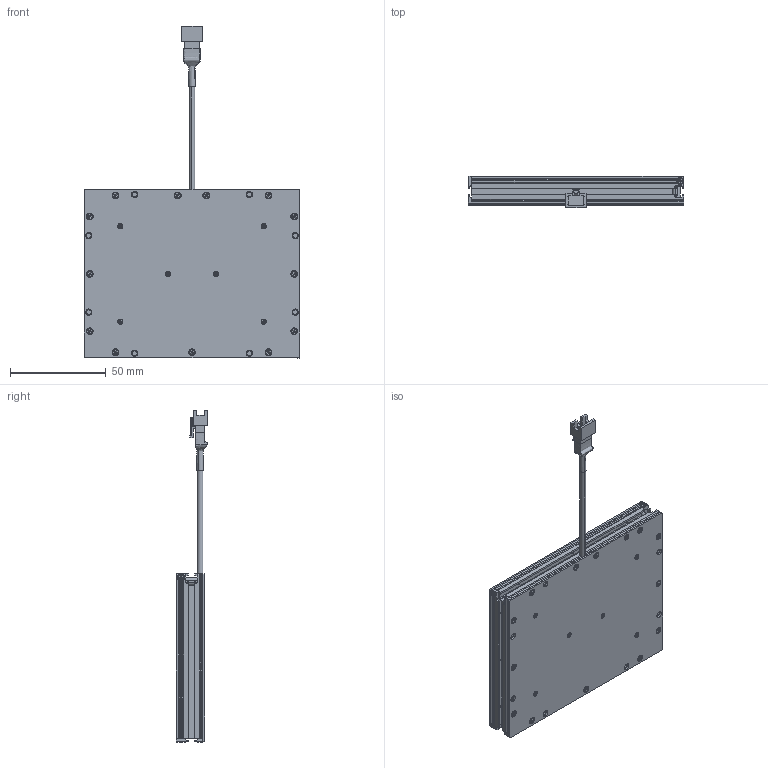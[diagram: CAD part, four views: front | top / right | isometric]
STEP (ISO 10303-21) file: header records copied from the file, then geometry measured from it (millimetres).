
FILE_DESCRIPTION (( 'STEP AP214' ), '1' );
FILE_NAME ('TMDF3004D101B_VDF-10075.STEP', '2023-05-02T03:09:10', ( '' ), ( '' ), 'SwSTEP 2.0', 'SolidWorks 2018', '' );
FILE_SCHEMA (( 'AUTOMOTIVE_DESIGN' ));
Length unit declared in the file: millimetre
Products named in the file (1): TMDF3004D101B_VDF-10075
Bounding box: 113 x 16.55 x 173.69 mm (x, y, z)
Surface area: 49213.7 mm2 (no closed solid volume)
Topology: 0 solids, 48 shells, 769 faces, 2309 edges, 1586 vertices
Faces by surface type: plane 507, cylinder 196, cone 64, bspline 2
Entity records: 35685 total; most frequent: CARTESIAN_POINT 6205, DIRECTION 4324, ORIENTED_EDGE 4074, EDGE_CURVE 2309, VECTOR 1662, LINE 1662, VERTEX_POINT 1586, AXIS2_PLACEMENT_3D 1331
